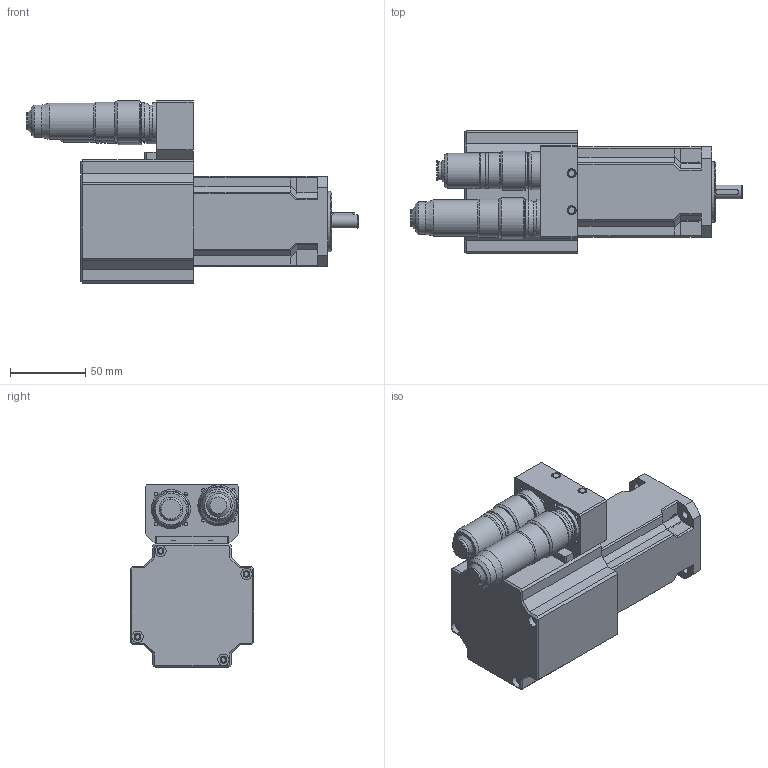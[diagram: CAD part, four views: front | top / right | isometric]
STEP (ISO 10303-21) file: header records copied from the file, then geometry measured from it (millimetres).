
FILE_DESCRIPTION((''),'2;1');
FILE_NAME('I:\Disegni_Meccanici_MOTORI_(3D)\SMB\60\stp\SME60-1.4-8-9-2ID-A6-A7-3D.stp','2009-06-16T14:09:41',('fm025178'),(''),'Autodesk Inventor 2008','Autodesk Inventor 2008','');
FILE_SCHEMA(('AUTOMOTIVE_DESIGN { 1 0 10303 214 1 1 1 1 }'));
Length unit declared in the file: millimetre
Products named in the file (1): SME60-1.4-8-9-2ID-A6-A7-3D
Bounding box: 220.5 x 82 x 121.1 mm (x, y, z)
Volume: 6782.4 mm3; surface area: 143252.2 mm2
Topology: 7 solids, 8 shells, 665 faces, 1600 edges, 975 vertices
Faces by surface type: plane 276, bspline 169, cylinder 161, cone 41, torus 18
Full cylindrical faces by diameter (mm): 2.387 x8, 3 x8, 3.5 x4, 4 x7, 4.5 x4, 5.5 x4, 6 x4, 7.5 x4, 9 x1, 11.207 x1, 11.977 x1, 12 x1, 13.472 x1, 15 x1, 16 x1, 19.8 x1, 20 x2, 20.5 x1, 21.5 x1, 21.522 x1, 22.5 x1, 23 x3, 24 x2, 24.2 x1, 25 x3, 25.2 x1, 26 x1, 27.2 x1, 28 x1, 32 x3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
Entity records: 24980 total; most frequent: CARTESIAN_POINT 10722, DIRECTION 2865, ORIENTED_EDGE 2788, EDGE_CURVE 1394, AXIS2_PLACEMENT_3D 1150, VERTEX_POINT 944, EDGE_LOOP 908, FACE_OUTER_BOUND 665
